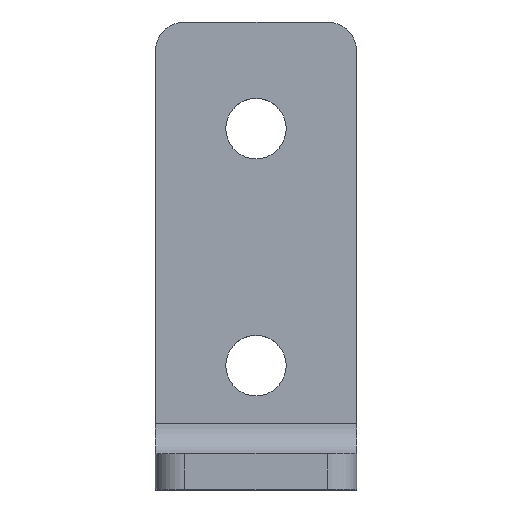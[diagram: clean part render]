
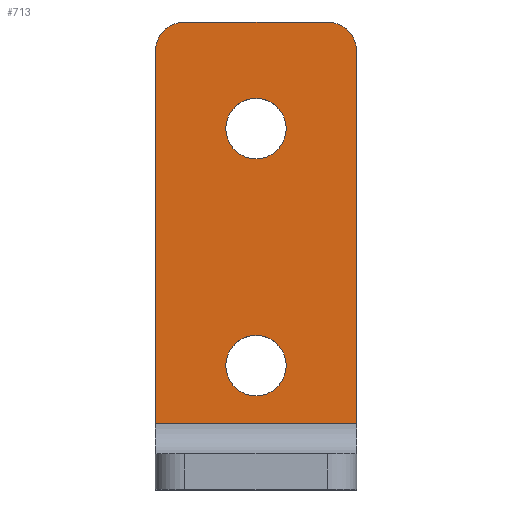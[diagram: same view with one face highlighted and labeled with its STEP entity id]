
A CAD part, top view. The second image highlights one B-rep face of the part: STEP entity #713.
In plain terms, the highlighted planar face has unit normal (0, 0, 1).
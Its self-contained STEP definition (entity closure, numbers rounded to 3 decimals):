
#2 = ORIENTED_EDGE ( 'NONE', *, *, #513, .T. ) ;
#4 = CARTESIAN_POINT ( 'NONE',  ( 1.185, 0.989, 3. ) ) ;
#10 = CARTESIAN_POINT ( 'NONE',  ( -9.865, 7.489, 3. ) ) ;
#31 = CIRCLE ( 'NONE', #600, 2.55 ) ;
#45 = EDGE_CURVE ( 'NONE', #128, #811, #547, .T. ) ;
#47 = ORIENTED_EDGE ( 'NONE', *, *, #478, .T. ) ;
#81 = CARTESIAN_POINT ( 'NONE',  ( -9.865, 9.989, 3. ) ) ;
#82 = VECTOR ( 'NONE', #315, 1000. ) ;
#91 = VECTOR ( 'NONE', #620, 1000. ) ;
#106 = ORIENTED_EDGE ( 'NONE', *, *, #831, .F. ) ;
#124 = CARTESIAN_POINT ( 'NONE',  ( 7.135, 7.489, 3. ) ) ;
#128 = VERTEX_POINT ( 'NONE', #588 ) ;
#134 = EDGE_LOOP ( 'NONE', ( #705, #442 ) ) ;
#143 = DIRECTION ( 'NONE',  ( 0., 1., 0. ) ) ;
#146 = CARTESIAN_POINT ( 'NONE',  ( 4.635, 7.489, 3. ) ) ;
#158 = EDGE_LOOP ( 'NONE', ( #332, #106 ) ) ;
#189 = CARTESIAN_POINT ( 'NONE',  ( -1.365, 0.989, 3. ) ) ;
#204 = CARTESIAN_POINT ( 'NONE',  ( 0., 0., 3. ) ) ;
#211 = CARTESIAN_POINT ( 'NONE',  ( -7.365, 7.489, 3. ) ) ;
#212 = VERTEX_POINT ( 'NONE', #656 ) ;
#214 = DIRECTION ( 'NONE',  ( 1., 0., 0. ) ) ;
#215 = CARTESIAN_POINT ( 'NONE',  ( -3.915, -19.011, 3. ) ) ;
#220 = DIRECTION ( 'NONE',  ( 0., 0., 1. ) ) ;
#222 = EDGE_CURVE ( 'NONE', #734, #422, #799, .T. ) ;
#231 = CARTESIAN_POINT ( 'NONE',  ( -1.365, -19.011, 3. ) ) ;
#254 = DIRECTION ( 'NONE',  ( 1., 0., 0. ) ) ;
#271 = FACE_BOUND ( 'NONE', #158, .T. ) ;
#275 = DIRECTION ( 'NONE',  ( 1., 0., 0. ) ) ;
#276 = DIRECTION ( 'NONE',  ( 1., 0., 0. ) ) ;
#296 = DIRECTION ( 'NONE',  ( 0., 0., 1. ) ) ;
#308 = EDGE_CURVE ( 'NONE', #607, #402, #738, .T. ) ;
#310 = VERTEX_POINT ( 'NONE', #124 ) ;
#315 = DIRECTION ( 'NONE',  ( 1., 0., 0. ) ) ;
#332 = ORIENTED_EDGE ( 'NONE', *, *, #45, .F. ) ;
#359 = ORIENTED_EDGE ( 'NONE', *, *, #506, .T. ) ;
#384 = CARTESIAN_POINT ( 'NONE',  ( -1.365, 0.989, 3. ) ) ;
#393 = ORIENTED_EDGE ( 'NONE', *, *, #729, .T. ) ;
#402 = VERTEX_POINT ( 'NONE', #4 ) ;
#406 = VECTOR ( 'NONE', #143, 1000. ) ;
#422 = VERTEX_POINT ( 'NONE', #810 ) ;
#425 = LINE ( 'NONE', #683, #406 ) ;
#427 = CIRCLE ( 'NONE', #527, 2.5 ) ;
#442 = ORIENTED_EDGE ( 'NONE', *, *, #308, .F. ) ;
#448 = EDGE_LOOP ( 'NONE', ( #2, #679, #696, #359, #47, #393 ) ) ;
#449 = DIRECTION ( 'NONE',  ( 1., 0., 0. ) ) ;
#455 = CARTESIAN_POINT ( 'NONE',  ( -3.915, 0.989, 3. ) ) ;
#475 = CARTESIAN_POINT ( 'NONE',  ( -9.865, -23.911, 3. ) ) ;
#478 = EDGE_CURVE ( 'NONE', #212, #761, #787, .T. ) ;
#482 = AXIS2_PLACEMENT_3D ( 'NONE', #204, #682, #275 ) ;
#489 = EDGE_CURVE ( 'NONE', #422, #310, #425, .T. ) ;
#497 = AXIS2_PLACEMENT_3D ( 'NONE', #146, #626, #214 ) ;
#498 = DIRECTION ( 'NONE',  ( 1., 0., 0. ) ) ;
#506 = EDGE_CURVE ( 'NONE', #310, #212, #747, .T. ) ;
#513 = EDGE_CURVE ( 'NONE', #669, #734, #726, .T. ) ;
#527 = AXIS2_PLACEMENT_3D ( 'NONE', #211, #685, #276 ) ;
#537 = EDGE_CURVE ( 'NONE', #402, #607, #31, .T. ) ;
#545 = VECTOR ( 'NONE', #555, 1000. ) ;
#546 = PLANE ( 'NONE',  #482 ) ;
#547 = CIRCLE ( 'NONE', #817, 2.55 ) ;
#548 = CARTESIAN_POINT ( 'NONE',  ( -9.865, 9.989, 3. ) ) ;
#555 = DIRECTION ( 'NONE',  ( 0., -1., 0. ) ) ;
#588 = CARTESIAN_POINT ( 'NONE',  ( 1.185, -19.011, 3. ) ) ;
#600 = AXIS2_PLACEMENT_3D ( 'NONE', #384, #856, #449 ) ;
#607 = VERTEX_POINT ( 'NONE', #455 ) ;
#620 = DIRECTION ( 'NONE',  ( -1., 0., 0. ) ) ;
#622 = CARTESIAN_POINT ( 'NONE',  ( -7.365, 9.989, 3. ) ) ;
#626 = DIRECTION ( 'NONE',  ( 0., 0., 1. ) ) ;
#630 = CARTESIAN_POINT ( 'NONE',  ( -1.365, -19.011, 3. ) ) ;
#638 = FACE_OUTER_BOUND ( 'NONE', #448, .T. ) ;
#656 = CARTESIAN_POINT ( 'NONE',  ( 4.635, 9.989, 3. ) ) ;
#666 = DIRECTION ( 'NONE',  ( 0., 0., 1. ) ) ;
#669 = VERTEX_POINT ( 'NONE', #10 ) ;
#671 = AXIS2_PLACEMENT_3D ( 'NONE', #630, #220, #693 ) ;
#679 = ORIENTED_EDGE ( 'NONE', *, *, #222, .T. ) ;
#682 = DIRECTION ( 'NONE',  ( 0., 0., 1. ) ) ;
#683 = CARTESIAN_POINT ( 'NONE',  ( 7.135, 9.989, 3. ) ) ;
#685 = DIRECTION ( 'NONE',  ( 0., 0., 1. ) ) ;
#693 = DIRECTION ( 'NONE',  ( 1., 0., 0. ) ) ;
#696 = ORIENTED_EDGE ( 'NONE', *, *, #489, .T. ) ;
#705 = ORIENTED_EDGE ( 'NONE', *, *, #537, .F. ) ;
#713 = ADVANCED_FACE ( 'NONE', ( #638, #271, #836 ), #546, .T. ) ;
#725 = CARTESIAN_POINT ( 'NONE',  ( 0., -23.911, 3. ) ) ;
#726 = LINE ( 'NONE', #81, #545 ) ;
#729 = EDGE_CURVE ( 'NONE', #761, #669, #427, .T. ) ;
#732 = CIRCLE ( 'NONE', #671, 2.55 ) ;
#734 = VERTEX_POINT ( 'NONE', #475 ) ;
#738 = CIRCLE ( 'NONE', #796, 2.55 ) ;
#747 = CIRCLE ( 'NONE', #497, 2.5 ) ;
#761 = VERTEX_POINT ( 'NONE', #622 ) ;
#787 = LINE ( 'NONE', #548, #91 ) ;
#796 = AXIS2_PLACEMENT_3D ( 'NONE', #189, #666, #254 ) ;
#799 = LINE ( 'NONE', #725, #82 ) ;
#810 = CARTESIAN_POINT ( 'NONE',  ( 7.135, -23.911, 3. ) ) ;
#811 = VERTEX_POINT ( 'NONE', #215 ) ;
#817 = AXIS2_PLACEMENT_3D ( 'NONE', #231, #296, #498 ) ;
#831 = EDGE_CURVE ( 'NONE', #811, #128, #732, .T. ) ;
#836 = FACE_BOUND ( 'NONE', #134, .T. ) ;
#856 = DIRECTION ( 'NONE',  ( 0., 0., 1. ) ) ;
